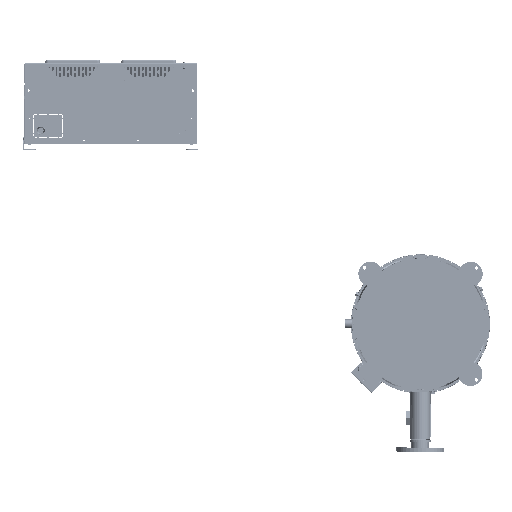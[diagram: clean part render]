
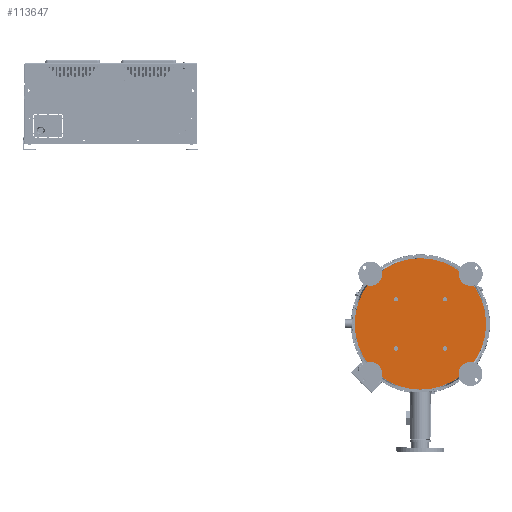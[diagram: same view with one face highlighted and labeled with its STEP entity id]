
A CAD part, front view. The second image highlights one B-rep face of the part: STEP entity #113647.
In plain terms, the highlighted planar face has unit normal (0, -1, 0).
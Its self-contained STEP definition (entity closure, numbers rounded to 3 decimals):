
#1327=FACE_BOUND('',#35245,.T.);
#1328=FACE_BOUND('',#35246,.T.);
#1329=FACE_BOUND('',#35247,.T.);
#1330=FACE_BOUND('',#35248,.T.);
#5651=PLANE('',#120180);
#9290=LINE('',#170535,#19755);
#9291=LINE('',#170536,#19756);
#19755=VECTOR('',#134307,10.);
#19756=VECTOR('',#134308,10.);
#29937=FACE_OUTER_BOUND('',#35244,.T.);
#35244=EDGE_LOOP('',(#81270,#81271,#81272));
#35245=EDGE_LOOP('',(#81273));
#35246=EDGE_LOOP('',(#81274));
#35247=EDGE_LOOP('',(#81275));
#35248=EDGE_LOOP('',(#81276));
#42910=CIRCLE('',#120160,245.5);
#42918=CIRCLE('',#120173,8.25);
#42919=CIRCLE('',#120175,8.25);
#42920=CIRCLE('',#120177,8.25);
#42921=CIRCLE('',#120179,8.25);
#49545=VERTEX_POINT('',#170449);
#49546=VERTEX_POINT('',#170451);
#49557=VERTEX_POINT('',#170518);
#49558=VERTEX_POINT('',#170522);
#49559=VERTEX_POINT('',#170526);
#49560=VERTEX_POINT('',#170530);
#49561=VERTEX_POINT('',#170534);
#62216=EDGE_CURVE('',#49546,#49545,#42910,.T.);
#62232=EDGE_CURVE('',#49557,#49557,#42918,.T.);
#62234=EDGE_CURVE('',#49558,#49558,#42919,.T.);
#62236=EDGE_CURVE('',#49559,#49559,#42920,.T.);
#62238=EDGE_CURVE('',#49560,#49560,#42921,.T.);
#62239=EDGE_CURVE('',#49545,#49561,#9290,.T.);
#62240=EDGE_CURVE('',#49561,#49546,#9291,.T.);
#81270=ORIENTED_EDGE('',*,*,#62239,.T.);
#81271=ORIENTED_EDGE('',*,*,#62240,.T.);
#81272=ORIENTED_EDGE('',*,*,#62216,.T.);
#81273=ORIENTED_EDGE('',*,*,#62238,.T.);
#81274=ORIENTED_EDGE('',*,*,#62236,.T.);
#81275=ORIENTED_EDGE('',*,*,#62234,.T.);
#81276=ORIENTED_EDGE('',*,*,#62232,.T.);
#113647=ADVANCED_FACE('',(#29937,#1327,#1328,#1329,#1330),#5651,.T.);
#120160=AXIS2_PLACEMENT_3D('',#170452,#134256,#134257);
#120173=AXIS2_PLACEMENT_3D('',#170520,#134288,#134289);
#120175=AXIS2_PLACEMENT_3D('',#170524,#134293,#134294);
#120177=AXIS2_PLACEMENT_3D('',#170528,#134298,#134299);
#120179=AXIS2_PLACEMENT_3D('',#170532,#134303,#134304);
#120180=AXIS2_PLACEMENT_3D('',#170533,#134305,#134306);
#134256=DIRECTION('center_axis',(0.,-1.,0.));
#134257=DIRECTION('ref_axis',(-1.,0.,
0.001));
#134288=DIRECTION('center_axis',(0.,1.,0.));
#134289=DIRECTION('ref_axis',(-0.001,0.,
-1.));
#134293=DIRECTION('center_axis',(0.,1.,0.));
#134294=DIRECTION('ref_axis',(1.,0.,-0.001));
#134298=DIRECTION('center_axis',(0.,1.,0.));
#134299=DIRECTION('ref_axis',(0.001,0.,
1.));
#134303=DIRECTION('center_axis',(0.,1.,0.));
#134304=DIRECTION('ref_axis',(-1.,0.,
0.001));
#134305=DIRECTION('center_axis',(0.,-1.,0.));
#134306=DIRECTION('ref_axis',(-1.,0.,
0.001));
#134307=DIRECTION('',(-0.706,0.,0.708));
#134308=DIRECTION('',(0.708,0.,0.706));
#170449=CARTESIAN_POINT('',(1596.204,105.163,-685.405));
#170451=CARTESIAN_POINT('',(1596.21,105.163,-679.441));
#170452=CARTESIAN_POINT('Origin',(1350.725,105.163,-682.172));
#170518=CARTESIAN_POINT('',(1258.904,105.163,-581.904));
#170520=CARTESIAN_POINT('Origin',(1258.895,105.163,-590.154));
#170522=CARTESIAN_POINT('',(1250.457,105.163,-773.993));
#170524=CARTESIAN_POINT('Origin',(1258.707,105.163,-774.001));
#170526=CARTESIAN_POINT('',(1442.546,105.163,-782.44));
#170528=CARTESIAN_POINT('Origin',(1442.555,105.163,-774.19));
#170530=CARTESIAN_POINT('',(1450.993,105.163,-590.35));
#170532=CARTESIAN_POINT('Origin',(1442.743,105.163,-590.342));
#170533=CARTESIAN_POINT('Origin',(1350.725,105.163,-682.172));
#170534=CARTESIAN_POINT('',(1593.225,105.163,-682.42));
#170535=CARTESIAN_POINT('',(1534.151,105.163,-623.225));
#170536=CARTESIAN_POINT('',(1532.538,105.163,-742.983));
